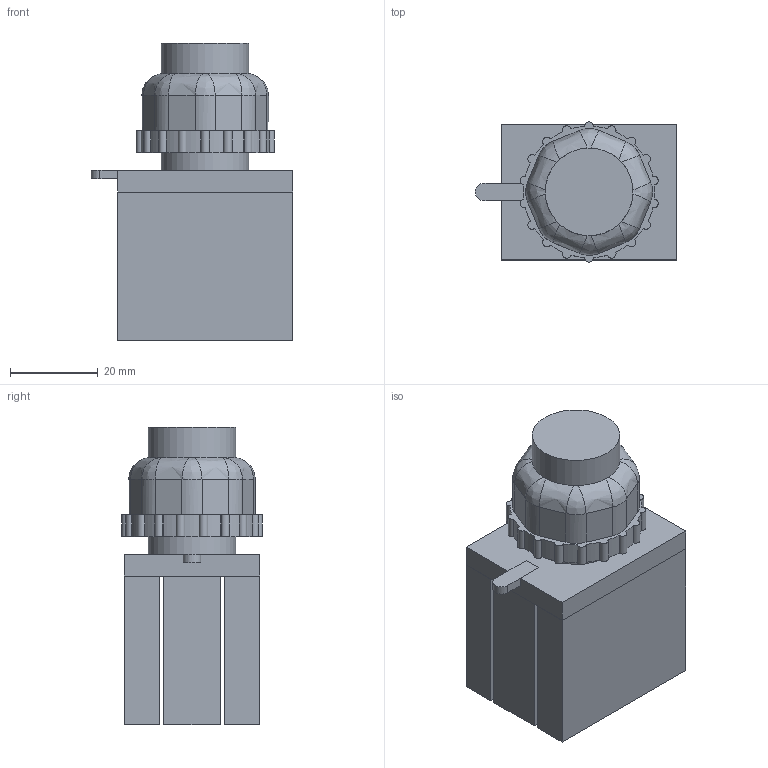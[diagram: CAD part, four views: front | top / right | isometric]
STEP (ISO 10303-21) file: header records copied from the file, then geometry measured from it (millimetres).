
FILE_DESCRIPTION(/* description */ (''),/* implementation_level */ '2;1');
FILE_NAME(/* name */ 'D:\CHINT3\NP8-GND.stp',/* time_stamp */ '2017-12-10T20:55:49+03:00',/* author */ ('RSagdiev'),/* organization */ (''),/* preprocessor_version */ 'ST-DEVELOPER v16.5',/* originating_system */ 'Autodesk Inventor 2017',/* authorisation */ '');
FILE_SCHEMA (('AUTOMOTIVE_DESIGN { 1 0 10303 214 3 1 1 }'));
Length unit declared in the file: millimetre
Products named in the file (1): NP8-GND
Bounding box: 46 x 32 x 68 mm (x, y, z)
Volume: 60556.3 mm3; surface area: 23045 mm2
Topology: 9 solids, 9 shells, 148 faces, 377 edges, 246 vertices
Faces by surface type: plane 84, cylinder 48, bspline 16
Full cylindrical faces by diameter (mm): 20 x3
Entity records: 4878 total; most frequent: CARTESIAN_POINT 1215, ORIENTED_EDGE 746, DIRECTION 742, EDGE_CURVE 373, AXIS2_PLACEMENT_3D 252, VERTEX_POINT 245, LINE 238, VECTOR 238
